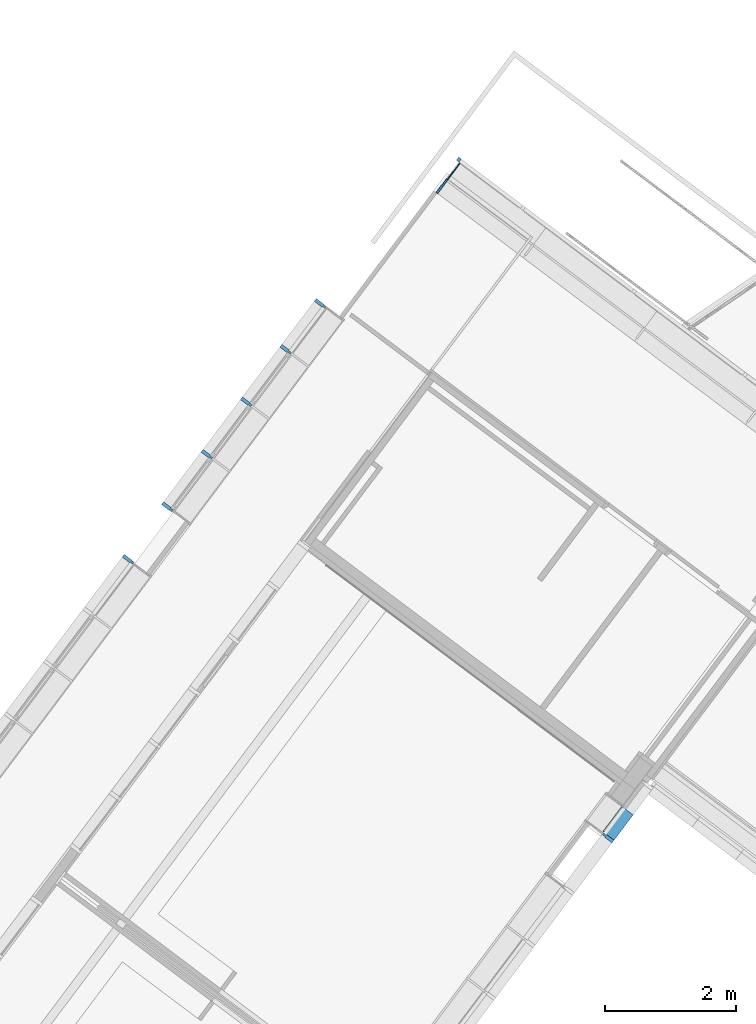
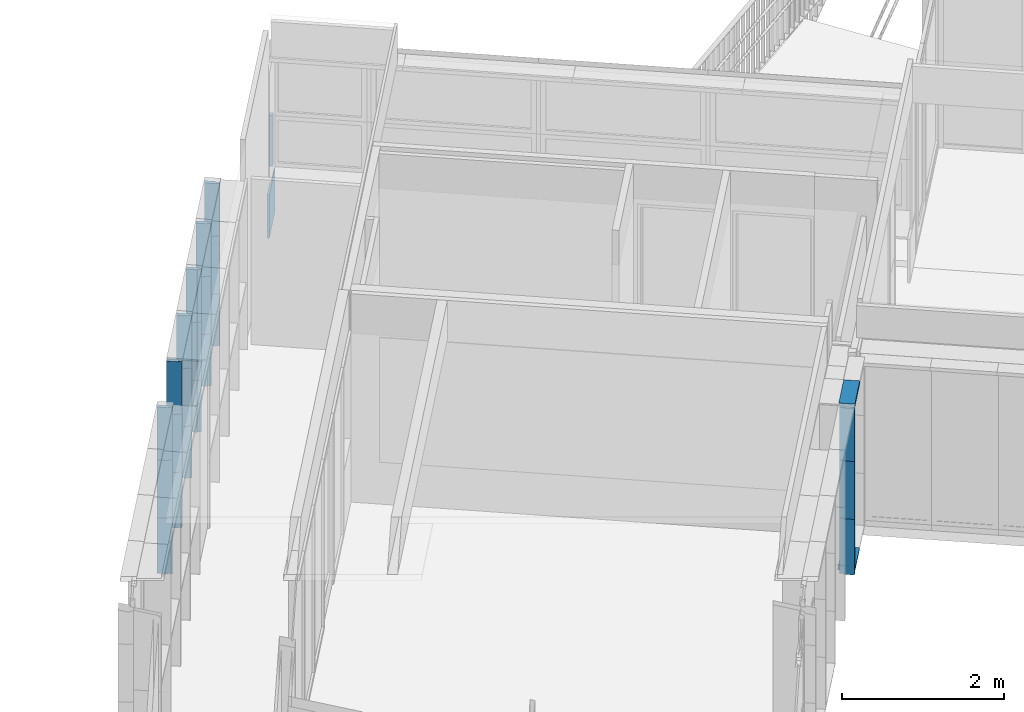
# One storey, part 100 of 243: 25 members, 4 elements without a shape of their own.
"""IFC2X3 building model written with IfcOpenShell, lengths in metres."""

from ifc_helpers import new_model, entity, si_unit, converted_unit, derived_unit, direction, frame, frame_2d, origin, place, context, subcontext, project, spatial, polyline, circle_curve, parameter, trimmed, segment, composite_curve, rectangle, outline, extrude, source, transform, mapped, material, type_object, type_shapes, element, aggregate, save


model = new_model("IFC2X3")

# Units and contexts
model_context = context("Model", 3, precision=1e-05, world=origin(), true_north=direction((6.123031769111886e-17, 1.0)))
body_context = subcontext(model_context, "Body", "Model", "MODEL_VIEW")
ifc_project = project(units=[si_unit("LENGTHUNIT", "METRE"), si_unit("AREAUNIT", "SQUARE_METRE"), si_unit("VOLUMEUNIT", "CUBIC_METRE"), converted_unit("PLANEANGLEUNIT", "DEGREE", entity("IfcRatioMeasure", 0.017453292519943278), si_unit("PLANEANGLEUNIT", "RADIAN"), dimensions=[0, 0, 0, 0, 0, 0, 0]), si_unit("MASSUNIT", "GRAM", prefix="KILO"), derived_unit("MASSDENSITYUNIT", [(si_unit("MASSUNIT", "GRAM", prefix="KILO"), 1), (si_unit("LENGTHUNIT", "METRE"), -3)]), derived_unit("IONCONCENTRATIONUNIT", [(si_unit("MASSUNIT", "GRAM", prefix="KILO"), 1), (si_unit("LENGTHUNIT", "METRE"), -3)]), derived_unit("MOMENTOFINERTIAUNIT", [(si_unit("LENGTHUNIT", "METRE"), 4)]), si_unit("TIMEUNIT", "SECOND"), si_unit("FREQUENCYUNIT", "HERTZ"), si_unit("THERMODYNAMICTEMPERATUREUNIT", "DEGREE_CELSIUS"), derived_unit("THERMALTRANSMITTANCEUNIT", [(si_unit("MASSUNIT", "GRAM", prefix="KILO"), 1), (si_unit("THERMODYNAMICTEMPERATUREUNIT", "KELVIN"), -1), (si_unit("TIMEUNIT", "SECOND"), -3)]), derived_unit("THERMALCONDUCTANCEUNIT", [(si_unit("MASSUNIT", "GRAM", prefix="KILO"), 1), (si_unit("THERMODYNAMICTEMPERATUREUNIT", "KELVIN"), -1), (si_unit("TIMEUNIT", "SECOND"), -3), (si_unit("LENGTHUNIT", "METRE"), 1)]), derived_unit("VOLUMETRICFLOWRATEUNIT", [(si_unit("LENGTHUNIT", "METRE"), 3), (si_unit("TIMEUNIT", "SECOND"), -1)]), derived_unit("MASSFLOWRATEUNIT", [(si_unit("MASSUNIT", "GRAM", prefix="KILO"), 1), (si_unit("TIMEUNIT", "SECOND"), -1)]), derived_unit("ROTATIONALFREQUENCYUNIT", [(si_unit("TIMEUNIT", "SECOND"), -1)]), si_unit("ELECTRICCURRENTUNIT", "AMPERE"), si_unit("ELECTRICVOLTAGEUNIT", "VOLT"), si_unit("POWERUNIT", "WATT"), si_unit("FORCEUNIT", "NEWTON", prefix="KILO"), si_unit("ILLUMINANCEUNIT", "LUX"), si_unit("LUMINOUSFLUXUNIT", "LUMEN"), si_unit("LUMINOUSINTENSITYUNIT", "CANDELA"), derived_unit("USERDEFINED", [(si_unit("MASSUNIT", "GRAM", prefix="KILO"), -1), (si_unit("LENGTHUNIT", "METRE"), -2), (si_unit("TIMEUNIT", "SECOND"), 3), (si_unit("LUMINOUSFLUXUNIT", "LUMEN"), 1)]), derived_unit("USERDEFINED", [(si_unit("MASSUNIT", "GRAM", prefix="KILO"), 1), (si_unit("TIMEUNIT", "SECOND"), -3), (si_unit("LENGTHUNIT", "METRE"), 3), (si_unit("ELECTRICCURRENTUNIT", "AMPERE"), -2)]), derived_unit("SOUNDPOWERUNIT", [(si_unit("MASSUNIT", "GRAM", prefix="KILO"), 1), (si_unit("TIMEUNIT", "SECOND"), -3), (si_unit("LENGTHUNIT", "METRE"), 2)]), derived_unit("SOUNDPRESSUREUNIT", [(si_unit("MASSUNIT", "GRAM", prefix="KILO"), 1), (si_unit("LENGTHUNIT", "METRE"), -1), (si_unit("TIMEUNIT", "SECOND"), -2)]), derived_unit("LINEARVELOCITYUNIT", [(si_unit("LENGTHUNIT", "METRE"), 1), (si_unit("TIMEUNIT", "SECOND"), -1)]), si_unit("PRESSUREUNIT", "PASCAL"), derived_unit("USERDEFINED", [(si_unit("MASSUNIT", "GRAM", prefix="KILO"), 1), (si_unit("LENGTHUNIT", "METRE"), -2), (si_unit("TIMEUNIT", "SECOND"), -2)]), derived_unit("LINEARFORCEUNIT", [(si_unit("MASSUNIT", "GRAM", prefix="KILO"), 1), (si_unit("TIMEUNIT", "SECOND"), -2)]), derived_unit("PLANARFORCEUNIT", [(si_unit("MASSUNIT", "GRAM", prefix="KILO"), 1), (si_unit("LENGTHUNIT", "METRE"), -1), (si_unit("TIMEUNIT", "SECOND"), -2)]), derived_unit("SPECIFICHEATCAPACITYUNIT", [(si_unit("THERMODYNAMICTEMPERATUREUNIT", "KELVIN"), -1), (si_unit("LENGTHUNIT", "METRE"), 2), (si_unit("TIMEUNIT", "SECOND"), -2)]), derived_unit("HEATINGVALUEUNIT", [(si_unit("LENGTHUNIT", "METRE"), 2), (si_unit("TIMEUNIT", "SECOND"), -2)]), derived_unit("VAPORPERMEABILITYUNIT", [(si_unit("LENGTHUNIT", "METRE"), -1), (si_unit("TIMEUNIT", "SECOND"), 1)]), derived_unit("DYNAMICVISCOSITYUNIT", [(si_unit("MASSUNIT", "GRAM", prefix="KILO"), 1), (si_unit("TIMEUNIT", "SECOND"), -1), (si_unit("LENGTHUNIT", "METRE"), -1)]), derived_unit("THERMALEXPANSIONCOEFFICIENTUNIT", [(si_unit("THERMODYNAMICTEMPERATUREUNIT", "KELVIN"), -1)]), derived_unit("MODULUSOFELASTICITYUNIT", [(si_unit("MASSUNIT", "GRAM", prefix="KILO"), 1), (si_unit("LENGTHUNIT", "METRE"), -1), (si_unit("TIMEUNIT", "SECOND"), -2)]), derived_unit("ISOTHERMALMOISTURECAPACITYUNIT", [(si_unit("LENGTHUNIT", "METRE"), 3), (si_unit("MASSUNIT", "GRAM", prefix="KILO"), -1)]), derived_unit("MOISTUREDIFFUSIVITYUNIT", [(si_unit("TIMEUNIT", "SECOND"), -1), (si_unit("LENGTHUNIT", "METRE"), 2)])], contexts=[model_context])

# Site, building, storey
site_placement = place(None, frame((0.0, 0.0, 235.0), z_axis=(0.0, 0.0, 1.0), x_axis=(-0.7996477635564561, 0.6004693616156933, 0.0)))
site = spatial("IfcSite", under=ifc_project, at=site_placement, Name="Default", CompositionType="ELEMENT")
building_placement = place(site_placement, origin())
building = spatial("IfcBuilding", under=site, at=building_placement, CompositionType="ELEMENT")
storey_placement = place(building_placement, origin())
storey = spatial("IfcBuildingStorey", under=building, at=storey_placement, Name="P0- Escola", CompositionType="ELEMENT", Elevation=0.0)

# Curtain wall, members
curtain_wall_type_1 = type_object("IfcCurtainWallType", Name="Muro cortina:MC- EXT- MC2", PredefinedType="NOTDEFINED")
curtain_wall_1_placement = place(storey_placement, origin())
curtain_wall_1 = element("IfcCurtainWall", 1, at=curtain_wall_1_placement, inside=storey, type_object=curtain_wall_type_1, Name="Muro cortina:MC- EXT- MC2", ObjectType="Muro cortina:MC- EXT- MC2")
ifc_material_1 = material(Name="_Alumini- T1- Perfil")
member_type_1 = type_object("IfcMemberType", Name="Montante rectangular:MC- Alu- 140x52,5 cm- Fa patis- Centre", PredefinedType="MULLION", material=ifc_material_1)
shared_shape_1 = source(origin(), body_context, "Body", "SweptSolid", [
    extrude(outline(polyline([(-0.11699999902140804, -0.026250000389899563), (0.021999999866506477, -0.026250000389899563), (0.021999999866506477, -0.01500000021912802), (0.07299999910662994, -0.01500000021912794), (0.07299999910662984, 0.015000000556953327), (0.02200000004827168, 0.015000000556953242), (0.02200000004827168, 0.026250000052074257), (-0.11699999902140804, 0.026250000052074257), (-0.11699999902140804, -0.026250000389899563)])), frame((0.0, 0.022999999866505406, -0.8400000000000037), z_axis=(0.0, 0.0, 1.0), x_axis=(0.0, -1.0, 0.0)), (0.0, 0.0, 1.0), 0.8400000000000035),
])
type_shapes(member_type_1, [shared_shape_1])
member_1_placement = place(curtain_wall_1_placement, frame((66.44514768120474, -35.41519175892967, -0.02), z_axis=(0.0, 0.0, -1.0), x_axis=(0.0, -1.0, 0.0)))
member_1 = element("IfcMember", 2, at=member_1_placement, type_object=member_type_1, material=ifc_material_1, Name="Montante rectangular:MC- Alu- 140x52,5 cm- Fa patis- Centre", ObjectType="Montante rectangular:MC- Alu- 140x52,5 cm- Fa patis- Centre", context=body_context, shape_type="MappedRepresentation", body=[
    mapped(shared_shape_1, transform((0.0, 0.0, 0.0), scale=1.0)),
])
member_type_2 = type_object("IfcMemberType", Name="Montante rectangular:MC- Alu- 140x52,5 cm- Fa patis- Centre", PredefinedType="MULLION", material=ifc_material_1)
shared_shape_2 = source(origin(), body_context, "Body", "SweptSolid", [
    extrude(outline(polyline([(-0.11699999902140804, -0.026250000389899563), (0.021999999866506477, -0.026250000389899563), (0.021999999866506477, -0.01500000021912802), (0.07299999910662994, -0.01500000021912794), (0.07299999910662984, 0.015000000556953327), (0.02200000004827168, 0.015000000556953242), (0.02200000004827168, 0.026250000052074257), (-0.11699999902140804, 0.026250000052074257), (-0.11699999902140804, -0.026250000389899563)])), frame((0.0, 0.022999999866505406, -0.8750000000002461), z_axis=(0.0, 0.0, 1.0), x_axis=(0.0, -1.0, 0.0)), (0.0, 0.0, 1.0), 0.8750000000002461),
])
type_shapes(member_type_2, [shared_shape_2])
member_2_placement = place(curtain_wall_1_placement, frame((66.44514768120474, -35.41519175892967, 0.8200000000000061), z_axis=(0.0, 0.0, -1.0), x_axis=(0.0, -1.0, 0.0)))
member_2 = element("IfcMember", 3, at=member_2_placement, type_object=member_type_2, material=ifc_material_1, Name="Montante rectangular:MC- Alu- 140x52,5 cm- Fa patis- Centre", ObjectType="Montante rectangular:MC- Alu- 140x52,5 cm- Fa patis- Centre", context=body_context, shape_type="MappedRepresentation", body=[
    mapped(shared_shape_2, transform((0.0, 0.0, 0.0), scale=1.0)),
])
member_type_3 = type_object("IfcMemberType", Name="Montante rectangular:MC- Alu- 140x52,5 cm- Fa patis- inferior", PredefinedType="MULLION", material=ifc_material_1)
shared_shape_3 = source(origin(), body_context, "Body", "SweptSolid", [
    extrude(outline(composite_curve([segment(polyline([(0.1278672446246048, -0.025867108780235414), (0.14416724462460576, -0.025867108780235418)]), True, "CONTINUOUS"), segment(polyline([(0.14416724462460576, -0.025867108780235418), (0.1441672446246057, 0.009132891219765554)]), True, "CONTINUOUS"), segment(polyline([(0.1441672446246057, 0.009132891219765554), (0.06786724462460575, 0.009132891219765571)]), True, "CONTINUOUS"), segment(polyline([(0.06786724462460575, 0.009132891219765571), (0.06786724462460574, -0.021159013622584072)]), True, "CONTINUOUS"), segment(polyline([(0.06786724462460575, -0.021159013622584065), (-0.030132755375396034, -0.012332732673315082)]), True, "CONTINUOUS"), segment(polyline([(-0.03013275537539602, -0.012332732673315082), (-0.030132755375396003, 0.0271328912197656)]), True, "CONTINUOUS"), segment(polyline([(-0.030132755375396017, 0.027132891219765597), (-0.0021327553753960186, 0.027132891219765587)]), True, "CONTINUOUS"), segment(polyline([(-0.0021327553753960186, 0.02713289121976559), (-0.0021327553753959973, 0.029132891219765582)]), True, "CONTINUOUS"), segment(polyline([(-0.0021327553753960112, 0.029132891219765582), (-0.032132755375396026, 0.029132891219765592)]), True, "CONTINUOUS"), segment(polyline([(-0.032132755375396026, 0.029132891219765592), (-0.03213275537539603, -0.012152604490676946)]), True, "CONTINUOUS"), segment(polyline([(-0.03213275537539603, -0.012152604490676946), (-0.0701327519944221, -0.008730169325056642)]), True, "CONTINUOUS"), segment(polyline([(-0.0701327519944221, -0.008730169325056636), (-0.0701327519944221, 0.005766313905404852)]), True, "CONTINUOUS"), segment(trimmed(circle_curve(frame_2d((-0.0696327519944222, 0.005766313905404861), x_axis=(-1.0, 0.0)), 0.0004999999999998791), [parameter(269.999999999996)], [parameter(0.0)], True, "PARAMETER"), False, "CONTINUOUS"), segment(polyline([(-0.0696327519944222, 0.006266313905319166), (-0.06213275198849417, 0.0062663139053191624)]), True, "CONTINUOUS"), segment(polyline([(-0.06213275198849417, 0.0062663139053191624), (-0.06213275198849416, 0.008266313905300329)]), True, "CONTINUOUS"), segment(polyline([(-0.06213275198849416, 0.008266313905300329), (-0.07013275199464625, 0.00826631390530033)]), True, "CONTINUOUS"), segment(trimmed(circle_curve(frame_2d((-0.07013275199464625, 0.006266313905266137), x_axis=(0.0, 1.0)), 0.0020000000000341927), [parameter(0.0)], [parameter(90.00000002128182)], True, "PARAMETER"), True, "CONTINUOUS"), segment(polyline([(-0.07213275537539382, 0.00626631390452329), (-0.07213275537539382, -0.008730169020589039)]), True, "CONTINUOUS"), segment(trimmed(circle_curve(frame_2d((-0.07013275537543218, -0.008730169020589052), x_axis=(-1.0, 0.0)), 0.0019999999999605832), [parameter(0.0)], [parameter(84.85359280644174)], True, "PARAMETER"), True, "CONTINUOUS"), segment(polyline([(-0.07031215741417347, -0.010722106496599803), (0.06786724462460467, -0.023167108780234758)]), True, "CONTINUOUS"), segment(polyline([(0.06786724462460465, -0.02316710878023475), (0.12786724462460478, -0.02316710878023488)]), True, "CONTINUOUS"), segment(polyline([(0.12786724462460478, -0.02316710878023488), (0.1278672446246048, -0.025867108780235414)]), True, "CONTINUOUS")], self_intersect=False)), frame((-0.029132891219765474, 0.06786724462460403, -0.4817482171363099), z_axis=(0.0, 0.0, 1.0), x_axis=(0.0, -1.0, 0.0)), (0.0, 0.0, 1.0), 0.48174821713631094),
])
type_shapes(member_type_3, [shared_shape_3])
member_3_placement = place(curtain_wall_1_placement, frame((66.44514768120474, -35.44144175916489, -0.02), z_axis=(0.0, 1.0, 0.0), x_axis=(0.0, 0.0, -1.0)))
member_3 = element("IfcMember", 4, at=member_3_placement, type_object=member_type_3, material=ifc_material_1, Name="Montante rectangular:MC- Alu- 140x52,5 cm- Fa patis- inferior", ObjectType="Montante rectangular:MC- Alu- 140x52,5 cm- Fa patis- inferior", context=body_context, shape_type="MappedRepresentation", body=[
    mapped(shared_shape_3, transform((0.0, 0.0, 0.0), scale=1.0)),
])
member_type_4 = type_object("IfcMemberType", Name="Montante rectangular:MC- Alu- 140x52,5 cm- Fa patis- Superior", PredefinedType="MULLION", material=ifc_material_1)
shared_shape_4 = source(origin(), body_context, "Body", "SweptSolid", [
    extrude(outline(polyline([(-0.11366666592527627, -0.021249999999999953), (0.02633333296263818, -0.021249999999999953), (0.02633333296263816, -0.010000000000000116), (0.08733333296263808, -0.010000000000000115), (0.08733333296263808, 0.03125000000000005), (-0.11366666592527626, 0.031250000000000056), (-0.11366666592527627, -0.021249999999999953)])), frame((-0.031250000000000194, 0.027333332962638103, -0.5079982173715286), z_axis=(0.0, 0.0, 1.0), x_axis=(0.0, -1.0, 0.0)), (0.0, 0.0, 1.0), 0.5079982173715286),
])
type_shapes(member_type_4, [shared_shape_4])
member_4_placement = place(curtain_wall_1_placement, frame((66.44514768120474, -35.9231899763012, 2.545), z_axis=(0.0, -1.0, 0.0), x_axis=(0.0, 0.0, 1.0)))
member_4 = element("IfcMember", 5, at=member_4_placement, type_object=member_type_4, material=ifc_material_1, Name="Montante rectangular:MC- Alu- 140x52,5 cm- Fa patis- Superior", ObjectType="Montante rectangular:MC- Alu- 140x52,5 cm- Fa patis- Superior", context=body_context, shape_type="MappedRepresentation", body=[
    mapped(shared_shape_4, transform((0.0, 0.0, 0.0), scale=1.0)),
])
member_type_5 = type_object("IfcMemberType", Name="Montante rectangular:MC- Alu- 140x52,5 cm- Fa patis- Centre", PredefinedType="MULLION", material=ifc_material_1)
shared_shape_5 = source(origin(), body_context, "Body", "SweptSolid", [
    extrude(outline(polyline([(-0.11699999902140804, -0.026250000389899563), (0.021999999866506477, -0.026250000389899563), (0.021999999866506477, -0.01500000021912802), (0.07299999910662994, -0.01500000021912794), (0.07299999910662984, 0.015000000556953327), (0.02200000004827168, 0.015000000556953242), (0.02200000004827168, 0.026250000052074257), (-0.11699999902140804, 0.026250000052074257), (-0.11699999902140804, -0.026250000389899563)])), frame((0.0, 0.022999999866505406, -0.79749999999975), z_axis=(0.0, 0.0, 1.0), x_axis=(0.0, -1.0, 0.0)), (0.0, 0.0, 1.0), 0.79749999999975),
])
type_shapes(member_type_5, [shared_shape_5])
member_5_placement = place(curtain_wall_1_placement, frame((66.44514768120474, -35.41519175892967, 1.6950000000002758), z_axis=(0.0, 0.0, -1.0), x_axis=(0.0, -1.0, 0.0)))
member_5 = element("IfcMember", 6, at=member_5_placement, type_object=member_type_5, material=ifc_material_1, Name="Montante rectangular:MC- Alu- 140x52,5 cm- Fa patis- Centre", ObjectType="Montante rectangular:MC- Alu- 140x52,5 cm- Fa patis- Centre", context=body_context, shape_type="MappedRepresentation", body=[
    mapped(shared_shape_5, transform((0.0, 0.0, 0.0), scale=1.0)),
])
aggregate(curtain_wall_1, [member_3, member_1, member_4, member_2, member_5])

curtain_wall_type_2 = type_object("IfcCurtainWallType", Name="Muro cortina:MC- EXT- MC5", PredefinedType="NOTDEFINED")
curtain_wall_2_placement = place(storey_placement, origin())
curtain_wall_2 = element("IfcCurtainWall", 7, at=curtain_wall_2_placement, inside=storey, type_object=curtain_wall_type_2, Name="Muro cortina:MC- EXT- MC5", ObjectType="Muro cortina:MC- EXT- MC5")
member_type_6 = type_object("IfcMemberType", Name="Montante rectangular:MC- Alu- 140x52,5 cm- Fa patis- Centre", PredefinedType="MULLION", material=ifc_material_1)
shared_shape_6 = source(origin(), body_context, "Body", "SweptSolid", [
    extrude(outline(polyline([(-0.021999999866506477, -0.026250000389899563), (0.11699999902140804, -0.026250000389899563), (0.11699999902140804, 0.026250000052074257), (-0.02200000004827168, 0.026250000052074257), (-0.02200000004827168, 0.015000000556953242), (-0.07299999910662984, 0.015000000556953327), (-0.07299999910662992, -0.01500000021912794), (-0.021999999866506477, -0.01500000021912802), (-0.021999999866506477, -0.026250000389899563)])), frame((0.0, -0.022999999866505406, -0.8400000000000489), z_axis=(0.0, 0.0, 1.0), x_axis=(0.0, -1.0, 0.0)), (0.0, 0.0, 1.0), 0.8400000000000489),
])
type_shapes(member_type_6, [shared_shape_6])
member_6_placement = place(curtain_wall_2_placement, frame((74.74514768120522, -35.41519175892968, -0.02), z_axis=(0.0, 0.0, -1.0), x_axis=(0.0, -1.0, 0.0)))
member_6 = element("IfcMember", 8, at=member_6_placement, type_object=member_type_6, material=ifc_material_1, Name="Montante rectangular:MC- Alu- 140x52,5 cm- Fa patis- Centre", ObjectType="Montante rectangular:MC- Alu- 140x52,5 cm- Fa patis- Centre", context=body_context, shape_type="MappedRepresentation", body=[
    mapped(shared_shape_6, transform((0.0, 0.0, 0.0), scale=1.0)),
])
member_7_placement = place(curtain_wall_2_placement, frame((74.74514768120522, -34.415191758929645, -0.02), z_axis=(0.0, 0.0, -1.0), x_axis=(0.0, -1.0, 0.0)))
member_7 = element("IfcMember", 9, at=member_7_placement, type_object=member_type_6, material=ifc_material_1, Name="Montante rectangular:MC- Alu- 140x52,5 cm- Fa patis- Centre", ObjectType="Montante rectangular:MC- Alu- 140x52,5 cm- Fa patis- Centre", context=body_context, shape_type="MappedRepresentation", body=[
    mapped(shared_shape_6, transform((0.0, 0.0, 0.0), scale=1.0)),
])
member_type_7 = type_object("IfcMemberType", Name="Montante rectangular:MC- Alu- 140x52,5 cm- Fa patis- Centre", PredefinedType="MULLION", material=ifc_material_1)
shared_shape_7 = source(origin(), body_context, "Body", "SweptSolid", [
    extrude(outline(polyline([(-0.021999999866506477, -0.026250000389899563), (0.11699999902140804, -0.026250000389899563), (0.11699999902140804, 0.026250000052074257), (-0.02200000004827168, 0.026250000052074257), (-0.02200000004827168, 0.015000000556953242), (-0.07299999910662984, 0.015000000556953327), (-0.07299999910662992, -0.015000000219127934), (-0.021999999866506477, -0.015000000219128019), (-0.021999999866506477, -0.026250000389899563)])), frame((-0.026250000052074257, -0.022999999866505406, -0.8750000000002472), z_axis=(0.0, 0.0, 1.0), x_axis=(0.0, -1.0, 0.0)), (0.0, 0.0, 1.0), 0.8750000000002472),
])
type_shapes(member_type_7, [shared_shape_7])
member_8_placement = place(curtain_wall_2_placement, frame((74.74514768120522, -39.31519175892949, 0.8200000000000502), z_axis=(0.0, 0.0, -1.0), x_axis=(0.0, -1.0, 0.0)))
member_8 = element("IfcMember", 10, at=member_8_placement, type_object=member_type_7, material=ifc_material_1, Name="Montante rectangular:MC- Alu- 140x52,5 cm- Fa patis- Centre", ObjectType="Montante rectangular:MC- Alu- 140x52,5 cm- Fa patis- Centre", context=body_context, shape_type="MappedRepresentation", body=[
    mapped(shared_shape_7, transform((0.0, 0.0, 0.0), scale=1.0)),
])
member_type_8 = type_object("IfcMemberType", Name="Montante rectangular:MC- Alu- 140x52,5 cm- Fa patis- Centre", PredefinedType="MULLION", material=ifc_material_1)
shared_shape_8 = source(origin(), body_context, "Body", "SweptSolid", [
    extrude(outline(polyline([(-0.021999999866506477, -0.026250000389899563), (0.11699999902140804, -0.026250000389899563), (0.11699999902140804, 0.026250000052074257), (-0.02200000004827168, 0.026250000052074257), (-0.02200000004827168, 0.015000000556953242), (-0.07299999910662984, 0.015000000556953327), (-0.07299999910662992, -0.01500000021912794), (-0.021999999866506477, -0.01500000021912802), (-0.021999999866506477, -0.026250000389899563)])), frame((0.0, -0.022999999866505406, -0.8750000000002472), z_axis=(0.0, 0.0, 1.0), x_axis=(0.0, -1.0, 0.0)), (0.0, 0.0, 1.0), 0.8750000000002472),
])
type_shapes(member_type_8, [shared_shape_8])
member_9_placement = place(curtain_wall_2_placement, frame((74.74514768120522, -34.415191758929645, 0.8200000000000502), z_axis=(0.0, 0.0, -1.0), x_axis=(0.0, -1.0, 0.0)))
member_9 = element("IfcMember", 11, at=member_9_placement, type_object=member_type_8, material=ifc_material_1, Name="Montante rectangular:MC- Alu- 140x52,5 cm- Fa patis- Centre", ObjectType="Montante rectangular:MC- Alu- 140x52,5 cm- Fa patis- Centre", context=body_context, shape_type="MappedRepresentation", body=[
    mapped(shared_shape_8, transform((0.0, 0.0, 0.0), scale=1.0)),
])
member_10_placement = place(curtain_wall_2_placement, frame((74.74514768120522, -35.41519175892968, 0.8200000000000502), z_axis=(0.0, 0.0, -1.0), x_axis=(0.0, -1.0, 0.0)))
member_10 = element("IfcMember", 12, at=member_10_placement, type_object=member_type_8, material=ifc_material_1, Name="Montante rectangular:MC- Alu- 140x52,5 cm- Fa patis- Centre", ObjectType="Montante rectangular:MC- Alu- 140x52,5 cm- Fa patis- Centre", context=body_context, shape_type="MappedRepresentation", body=[
    mapped(shared_shape_8, transform((0.0, 0.0, 0.0), scale=1.0)),
])
member_11_placement = place(curtain_wall_2_placement, frame((74.74514768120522, -36.415191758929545, 0.8200000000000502), z_axis=(0.0, 0.0, -1.0), x_axis=(0.0, -1.0, 0.0)))
member_11 = element("IfcMember", 13, at=member_11_placement, type_object=member_type_8, material=ifc_material_1, Name="Montante rectangular:MC- Alu- 140x52,5 cm- Fa patis- Centre", ObjectType="Montante rectangular:MC- Alu- 140x52,5 cm- Fa patis- Centre", context=body_context, shape_type="MappedRepresentation", body=[
    mapped(shared_shape_8, transform((0.0, 0.0, 0.0), scale=1.0)),
])
member_12_placement = place(curtain_wall_2_placement, frame((74.74514768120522, -37.415191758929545, 0.8200000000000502), z_axis=(0.0, 0.0, -1.0), x_axis=(0.0, -1.0, 0.0)))
member_12 = element("IfcMember", 14, at=member_12_placement, type_object=member_type_8, material=ifc_material_1, Name="Montante rectangular:MC- Alu- 140x52,5 cm- Fa patis- Centre", ObjectType="Montante rectangular:MC- Alu- 140x52,5 cm- Fa patis- Centre", context=body_context, shape_type="MappedRepresentation", body=[
    mapped(shared_shape_8, transform((0.0, 0.0, 0.0), scale=1.0)),
])
member_13_placement = place(curtain_wall_2_placement, frame((74.74514768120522, -38.415191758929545, 0.8200000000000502), z_axis=(0.0, 0.0, -1.0), x_axis=(0.0, -1.0, 0.0)))
member_13 = element("IfcMember", 15, at=member_13_placement, type_object=member_type_8, material=ifc_material_1, Name="Montante rectangular:MC- Alu- 140x52,5 cm- Fa patis- Centre", ObjectType="Montante rectangular:MC- Alu- 140x52,5 cm- Fa patis- Centre", context=body_context, shape_type="MappedRepresentation", body=[
    mapped(shared_shape_8, transform((0.0, 0.0, 0.0), scale=1.0)),
])
member_type_9 = type_object("IfcMemberType", Name="Montante rectangular:MC- Alu- 140x52,5 cm- Fa patis- Centre", PredefinedType="MULLION", material=ifc_material_1)
shared_shape_9 = source(origin(), body_context, "Body", "SweptSolid", [
    extrude(outline(polyline([(-0.021999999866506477, -0.026250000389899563), (0.11699999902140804, -0.026250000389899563), (0.11699999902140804, 0.026250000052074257), (-0.02200000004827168, 0.026250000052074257), (-0.02200000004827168, 0.015000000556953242), (-0.07299999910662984, 0.015000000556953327), (-0.07299999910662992, -0.015000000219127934), (-0.021999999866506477, -0.015000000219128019), (-0.021999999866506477, -0.026250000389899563)])), frame((-0.026250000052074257, -0.022999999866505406, -0.7974999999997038), z_axis=(0.0, 0.0, 1.0), x_axis=(0.0, -1.0, 0.0)), (0.0, 0.0, 1.0), 0.7974999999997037),
])
type_shapes(member_type_9, [shared_shape_9])
member_14_placement = place(curtain_wall_2_placement, frame((74.74514768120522, -39.31519175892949, 1.6950000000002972), z_axis=(0.0, 0.0, -1.0), x_axis=(0.0, -1.0, 0.0)))
member_14 = element("IfcMember", 16, at=member_14_placement, type_object=member_type_9, material=ifc_material_1, Name="Montante rectangular:MC- Alu- 140x52,5 cm- Fa patis- Centre", ObjectType="Montante rectangular:MC- Alu- 140x52,5 cm- Fa patis- Centre", context=body_context, shape_type="MappedRepresentation", body=[
    mapped(shared_shape_9, transform((0.0, 0.0, 0.0), scale=1.0)),
])
member_type_10 = type_object("IfcMemberType", Name="Montante rectangular:MC- Alu- 140x52,5 cm- Fa patis- Centre", PredefinedType="MULLION", material=ifc_material_1)
shared_shape_10 = source(origin(), body_context, "Body", "SweptSolid", [
    extrude(outline(polyline([(-0.021999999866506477, -0.026250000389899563), (0.11699999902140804, -0.026250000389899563), (0.11699999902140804, 0.026250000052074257), (-0.02200000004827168, 0.026250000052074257), (-0.02200000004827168, 0.015000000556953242), (-0.07299999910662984, 0.015000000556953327), (-0.07299999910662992, -0.01500000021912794), (-0.021999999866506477, -0.01500000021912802), (-0.021999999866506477, -0.026250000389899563)])), frame((0.0, -0.022999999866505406, -0.7974999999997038), z_axis=(0.0, 0.0, 1.0), x_axis=(0.0, -1.0, 0.0)), (0.0, 0.0, 1.0), 0.7974999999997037),
])
type_shapes(member_type_10, [shared_shape_10])
member_15_placement = place(curtain_wall_2_placement, frame((74.74514768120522, -34.415191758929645, 1.6950000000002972), z_axis=(0.0, 0.0, -1.0), x_axis=(0.0, -1.0, 0.0)))
member_15 = element("IfcMember", 17, at=member_15_placement, type_object=member_type_10, material=ifc_material_1, Name="Montante rectangular:MC- Alu- 140x52,5 cm- Fa patis- Centre", ObjectType="Montante rectangular:MC- Alu- 140x52,5 cm- Fa patis- Centre", context=body_context, shape_type="MappedRepresentation", body=[
    mapped(shared_shape_10, transform((0.0, 0.0, 0.0), scale=1.0)),
])
member_16_placement = place(curtain_wall_2_placement, frame((74.74514768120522, -35.41519175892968, 1.6950000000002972), z_axis=(0.0, 0.0, -1.0), x_axis=(0.0, -1.0, 0.0)))
member_16 = element("IfcMember", 18, at=member_16_placement, type_object=member_type_10, material=ifc_material_1, Name="Montante rectangular:MC- Alu- 140x52,5 cm- Fa patis- Centre", ObjectType="Montante rectangular:MC- Alu- 140x52,5 cm- Fa patis- Centre", context=body_context, shape_type="MappedRepresentation", body=[
    mapped(shared_shape_10, transform((0.0, 0.0, 0.0), scale=1.0)),
])
member_17_placement = place(curtain_wall_2_placement, frame((74.74514768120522, -36.415191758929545, 1.6950000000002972), z_axis=(0.0, 0.0, -1.0), x_axis=(0.0, -1.0, 0.0)))
member_17 = element("IfcMember", 19, at=member_17_placement, type_object=member_type_10, material=ifc_material_1, Name="Montante rectangular:MC- Alu- 140x52,5 cm- Fa patis- Centre", ObjectType="Montante rectangular:MC- Alu- 140x52,5 cm- Fa patis- Centre", context=body_context, shape_type="MappedRepresentation", body=[
    mapped(shared_shape_10, transform((0.0, 0.0, 0.0), scale=1.0)),
])
member_18_placement = place(curtain_wall_2_placement, frame((74.74514768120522, -37.415191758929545, 1.6950000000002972), z_axis=(0.0, 0.0, -1.0), x_axis=(0.0, -1.0, 0.0)))
member_18 = element("IfcMember", 20, at=member_18_placement, type_object=member_type_10, material=ifc_material_1, Name="Montante rectangular:MC- Alu- 140x52,5 cm- Fa patis- Centre", ObjectType="Montante rectangular:MC- Alu- 140x52,5 cm- Fa patis- Centre", context=body_context, shape_type="MappedRepresentation", body=[
    mapped(shared_shape_10, transform((0.0, 0.0, 0.0), scale=1.0)),
])
member_19_placement = place(curtain_wall_2_placement, frame((74.74514768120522, -38.415191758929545, 1.6950000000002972), z_axis=(0.0, 0.0, -1.0), x_axis=(0.0, -1.0, 0.0)))
member_19 = element("IfcMember", 21, at=member_19_placement, type_object=member_type_10, material=ifc_material_1, Name="Montante rectangular:MC- Alu- 140x52,5 cm- Fa patis- Centre", ObjectType="Montante rectangular:MC- Alu- 140x52,5 cm- Fa patis- Centre", context=body_context, shape_type="MappedRepresentation", body=[
    mapped(shared_shape_10, transform((0.0, 0.0, 0.0), scale=1.0)),
])

# Curtain wall, member
curtain_wall_type_3 = type_object("IfcCurtainWallType", Name="Muro cortina:MC- EXT- MC6", PredefinedType="NOTDEFINED")
curtain_wall_3_placement = place(storey_placement, origin())
curtain_wall_3 = element("IfcCurtainWall", 22, at=curtain_wall_3_placement, inside=storey, type_object=curtain_wall_type_3, Name="Muro cortina:MC- EXT- MC6", ObjectType="Muro cortina:MC- EXT- MC6")
member_type_11 = type_object("IfcMemberType", Name="Montante rectangular:MC- Alu- 50x60 cm- Fa pista- Centre", PredefinedType="MULLION", material=ifc_material_1)
shared_shape_11 = source(origin(), body_context, "Body", "SweptSolid", [
    extrude(rectangle(XDim=0.06000000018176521, YDim=0.05, at=frame_2d((3.469446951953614e-18, 0.0), x_axis=(1.0, 0.0))), frame((-0.025, -0.030000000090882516, -0.77), z_axis=(0.0, 0.0, 1.0), x_axis=(0.0, -1.0, 0.0)), (0.0, 0.0, 1.0), 0.77),
])
type_shapes(member_type_11, [shared_shape_11])
member_20_placement = place(curtain_wall_3_placement, frame((74.44514768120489, -42.34019175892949, 0.685), z_axis=(0.0, 0.0, -1.0), x_axis=(1.0, 0.0, 0.0)))
member_20 = element("IfcMember", 23, at=member_20_placement, type_object=member_type_11, material=ifc_material_1, Name="Montante rectangular:MC- Alu- 50x60 cm- Fa pista- Centre", ObjectType="Montante rectangular:MC- Alu- 50x60 cm- Fa pista- Centre", context=body_context, shape_type="MappedRepresentation", body=[
    mapped(shared_shape_11, transform((0.0, 0.0, 0.0), scale=1.0)),
])
aggregate(curtain_wall_3, [member_20])

# Member
member_type_12 = type_object("IfcMemberType", Name="Montante rectangular:MC- Alu- 140x52,5 cm- Fa patis- Centre", PredefinedType="MULLION", material=ifc_material_1)
shared_shape_12 = source(origin(), body_context, "Body", "SweptSolid", [
    extrude(outline(polyline([(-0.021999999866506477, -0.026250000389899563), (0.11699999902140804, -0.026250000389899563), (0.11699999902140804, 0.026250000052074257), (-0.02200000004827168, 0.026250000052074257), (-0.02200000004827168, 0.015000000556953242), (-0.07299999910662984, 0.015000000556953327), (-0.07299999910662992, -0.01500000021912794), (-0.021999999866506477, -0.01500000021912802), (-0.021999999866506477, -0.026250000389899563)])), frame((0.0, -0.022999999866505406, -0.7850000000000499), z_axis=(0.0, 0.0, 1.0), x_axis=(0.0, -1.0, 0.0)), (0.0, 0.0, 1.0), 0.7850000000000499),
])
type_shapes(member_type_12, [shared_shape_12])
member_21_placement = place(curtain_wall_2_placement, frame((74.74514768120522, -36.415191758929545, 0.035000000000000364), z_axis=(0.0, 0.0, -1.0), x_axis=(0.0, -1.0, 0.0)))
member_21 = element("IfcMember", 24, at=member_21_placement, type_object=member_type_12, material=ifc_material_1, Name="Montante rectangular:MC- Alu- 140x52,5 cm- Fa patis- Centre", ObjectType="Montante rectangular:MC- Alu- 140x52,5 cm- Fa patis- Centre", context=body_context, shape_type="MappedRepresentation", body=[
    mapped(shared_shape_12, transform((0.0, 0.0, 0.0), scale=1.0)),
])

member_22_placement = place(curtain_wall_2_placement, frame((74.74514768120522, -37.415191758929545, 0.035000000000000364), z_axis=(0.0, 0.0, -1.0), x_axis=(0.0, -1.0, 0.0)))
member_22 = element("IfcMember", 25, at=member_22_placement, type_object=member_type_12, material=ifc_material_1, Name="Montante rectangular:MC- Alu- 140x52,5 cm- Fa patis- Centre", ObjectType="Montante rectangular:MC- Alu- 140x52,5 cm- Fa patis- Centre", context=body_context, shape_type="MappedRepresentation", body=[
    mapped(shared_shape_12, transform((0.0, 0.0, 0.0), scale=1.0)),
])

member_23_placement = place(curtain_wall_2_placement, frame((74.74514768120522, -38.415191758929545, 0.035000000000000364), z_axis=(0.0, 0.0, -1.0), x_axis=(0.0, -1.0, 0.0)))
member_23 = element("IfcMember", 26, at=member_23_placement, type_object=member_type_12, material=ifc_material_1, Name="Montante rectangular:MC- Alu- 140x52,5 cm- Fa patis- Centre", ObjectType="Montante rectangular:MC- Alu- 140x52,5 cm- Fa patis- Centre", context=body_context, shape_type="MappedRepresentation", body=[
    mapped(shared_shape_12, transform((0.0, 0.0, 0.0), scale=1.0)),
])

# Curtain wall, member
curtain_wall_type_4 = type_object("IfcCurtainWallType", PredefinedType="NOTDEFINED")
curtain_wall_4_placement = place(storey_placement, origin())
curtain_wall_4 = element("IfcCurtainWall", 27, at=curtain_wall_4_placement, inside=storey, type_object=curtain_wall_type_4)
ifc_material_2 = material(Name="_Fusta massisa- T1")
member_type_13 = type_object("IfcMemberType", Name="Montante rectangular:MC- Fusta- 34x3 cm- Fa Pista- Remat Inferior", PredefinedType="MULLION", material=ifc_material_2)
shared_shape_13 = source(origin(), body_context, "Body", "SweptSolid", [
    extrude(outline(polyline([(-0.2783333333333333, -0.015000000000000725), (0.2966666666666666, -0.015000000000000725), (0.2966666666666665, 0.0), (-0.01833333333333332, 0.0), (-0.018333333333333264, 0.015000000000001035), (-0.27833333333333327, 0.015000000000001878), (-0.2783333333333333, -0.015000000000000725)])), frame((-0.015000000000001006, 0.046666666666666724, -0.6550000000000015), z_axis=(0.0, 0.0, 1.0), x_axis=(0.0, -1.0, 0.0)), (0.0, 0.0, 1.0), 0.6550000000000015),
])
type_shapes(member_type_13, [shared_shape_13])
member_24_placement = place(curtain_wall_4_placement, frame((74.3981436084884, -42.0301917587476, 0.6550000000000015)))
member_24 = element("IfcMember", 28, at=member_24_placement, type_object=member_type_13, material=ifc_material_2, Name="Montante rectangular:MC- Fusta- 34x3 cm- Fa Pista- Remat Inferior", ObjectType="Montante rectangular:MC- Fusta- 34x3 cm- Fa Pista- Remat Inferior", context=body_context, shape_type="MappedRepresentation", body=[
    mapped(shared_shape_13, transform((0.0, 0.0, 0.0), scale=1.0)),
])
aggregate(curtain_wall_4, [member_24])

# Member
member_type_14 = type_object("IfcMemberType", Name="Montante rectangular:MC- Alu- 140x52,5 cm- Fa patis- Centre", PredefinedType="MULLION", material=ifc_material_1)
shared_shape_14 = source(origin(), body_context, "Body", "SweptSolid", [
    extrude(outline(polyline([(-0.021999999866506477, -0.026250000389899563), (0.11699999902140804, -0.026250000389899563), (0.11699999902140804, 0.026250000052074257), (-0.02200000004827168, 0.026250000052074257), (-0.02200000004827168, 0.015000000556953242), (-0.07299999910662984, 0.015000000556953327), (-0.07299999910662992, -0.015000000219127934), (-0.021999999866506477, -0.015000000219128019), (-0.021999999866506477, -0.026250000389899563)])), frame((-0.026250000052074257, -0.022999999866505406, -0.7850000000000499), z_axis=(0.0, 0.0, 1.0), x_axis=(0.0, -1.0, 0.0)), (0.0, 0.0, 1.0), 0.7850000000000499),
])
type_shapes(member_type_14, [shared_shape_14])
member_25_placement = place(curtain_wall_2_placement, frame((74.74514768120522, -39.31519175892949, 0.035000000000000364), z_axis=(0.0, 0.0, -1.0), x_axis=(0.0, -1.0, 0.0)))
member_25 = element("IfcMember", 29, at=member_25_placement, type_object=member_type_14, material=ifc_material_1, Name="Montante rectangular:MC- Alu- 140x52,5 cm- Fa patis- Centre", ObjectType="Montante rectangular:MC- Alu- 140x52,5 cm- Fa patis- Centre", context=body_context, shape_type="MappedRepresentation", body=[
    mapped(shared_shape_14, transform((0.0, 0.0, 0.0), scale=1.0)),
])

aggregate(curtain_wall_2, [member_25, member_6, member_7, member_21, member_22, member_23, member_8, member_9, member_10, member_11, member_12, member_13, member_14, member_15, member_16, member_17, member_18, member_19])

save(model, "model.ifc")
